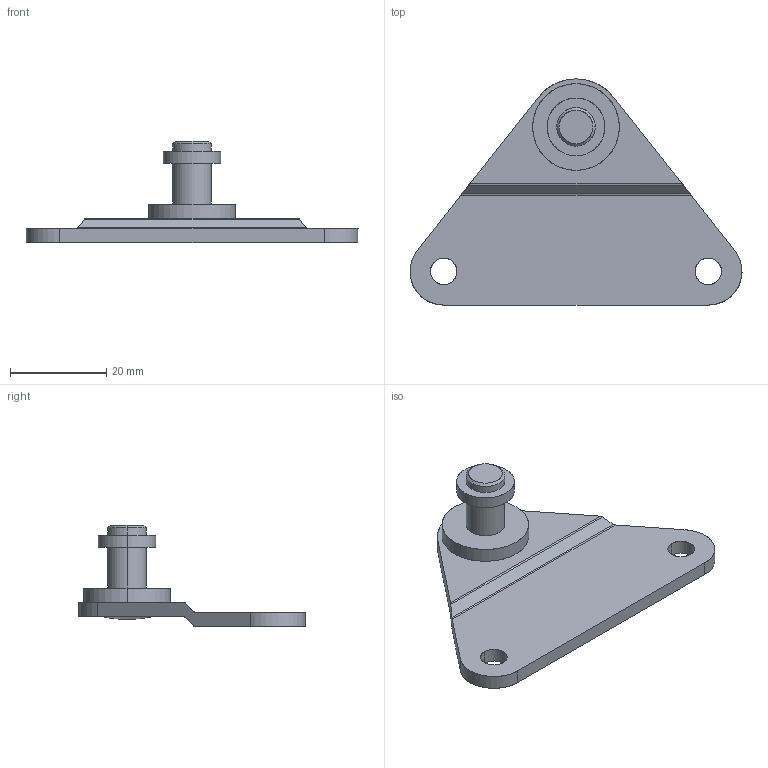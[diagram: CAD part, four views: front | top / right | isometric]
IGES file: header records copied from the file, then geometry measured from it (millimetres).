
Start section: SolidWorks IGES file using analytic representation for surfaces
Bounding box: 69 x 47 x 21 mm (x, y, z)
Surface area: 5484 mm2 (no closed solid volume)
Topology: 0 solids, 0 shells, 37 faces, 678 edges, 677 vertices
Faces by surface type: revolution 24, bspline 13
